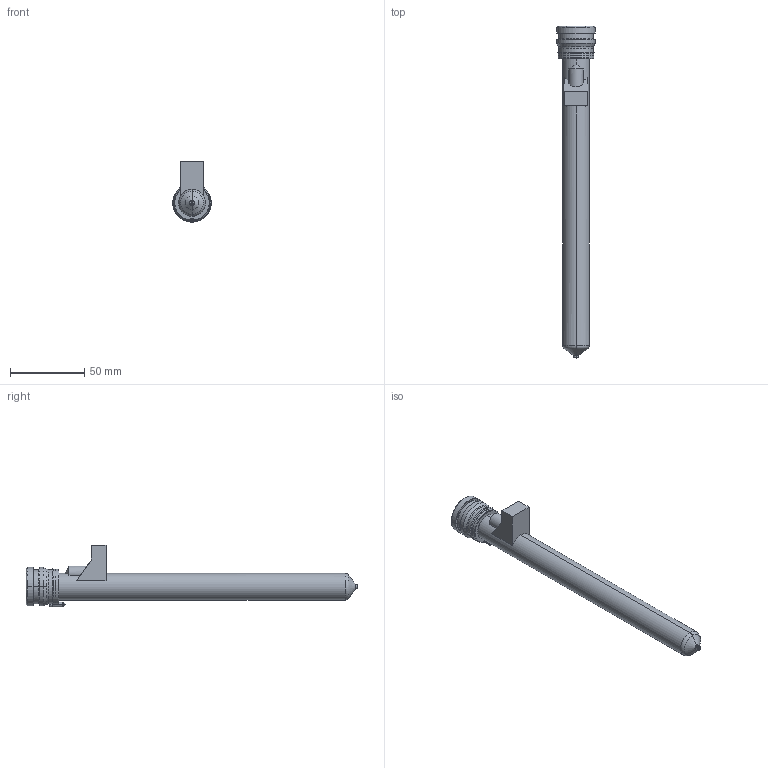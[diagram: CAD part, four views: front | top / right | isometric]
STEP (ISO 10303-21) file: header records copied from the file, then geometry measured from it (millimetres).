
FILE_DESCRIPTION((''),'2;1');
FILE_NAME('MPN-08-24-VP3-206-M','2026-02-05T13:33:43',('UPTIO'),('Thermoplay S.p.A.'),'CREO PARAMETRIC BY PTC INC, 2023494','CREO PARAMETRIC BY PTC INC, 2023494','');
FILE_SCHEMA(('CONFIG_CONTROL_DESIGN','SHAPE_APPEARANCE_LAYERS_GROUPS'));
Length unit declared in the file: millimetre
Products named in the file (1): MPN-08-24-VP3-206-M
Bounding box: 26 x 224.1 x 41.5 mm (x, y, z)
Volume: 41525.9 mm3; surface area: 56029.1 mm2
Topology: 2 solids, 3 shells, 571 faces, 1494 edges, 922 vertices
Faces by surface type: cylinder 178, plane 143, bspline 103, torus 68, cone 66, sphere 7, extrusion 6
Entity records: 30024 total; most frequent: CARTESIAN_POINT 13514, ORIENTED_EDGE 2970, DIRECTION 2631, EDGE_CURVE 1485, AXIS2_PLACEMENT_3D 1029, VERTEX_POINT 922, EDGE_LOOP 601, VECTOR 573
